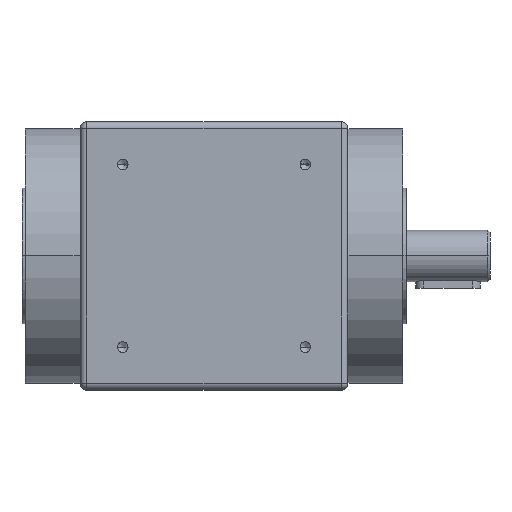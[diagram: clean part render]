
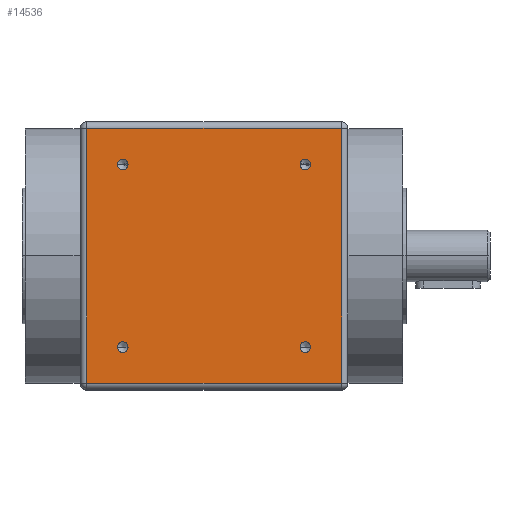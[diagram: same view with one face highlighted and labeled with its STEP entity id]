
A CAD part, top view. The second image highlights one B-rep face of the part: STEP entity #14536.
In plain terms, the highlighted planar face has unit normal (0, 0, 1).
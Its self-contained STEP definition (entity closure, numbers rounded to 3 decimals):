
#176 = VERTEX_POINT ( 'NONE', #6186 ) ;
#447 = ORIENTED_EDGE ( 'NONE', *, *, #22134, .T. ) ;
#1052 = CARTESIAN_POINT ( 'NONE',  ( 28.284, -28.284, 83. ) ) ;
#1228 = CARTESIAN_POINT ( 'NONE',  ( -29.934, -28.284, 83. ) ) ;
#1272 = AXIS2_PLACEMENT_3D ( 'NONE', #4582, #18094, #6503 ) ;
#1332 = DIRECTION ( 'NONE',  ( 0., -1., 0. ) ) ;
#1541 = DIRECTION ( 'NONE',  ( 0., 0., 1. ) ) ;
#2124 = VERTEX_POINT ( 'NONE', #7396 ) ;
#2131 = DIRECTION ( 'NONE',  ( 0., 1., 0. ) ) ;
#2200 = DIRECTION ( 'NONE',  ( 0., 0., 1. ) ) ;
#2317 = EDGE_CURVE ( 'NONE', #9475, #176, #7249, .T. ) ;
#2386 = AXIS2_PLACEMENT_3D ( 'NONE', #14420, #2866, #16351 ) ;
#2619 = FACE_OUTER_BOUND ( 'NONE', #23600, .T. ) ;
#2866 = DIRECTION ( 'NONE',  ( 0., 0., 1. ) ) ;
#2956 = AXIS2_PLACEMENT_3D ( 'NONE', #16407, #4860, #18367 ) ;
#2989 = DIRECTION ( 'NONE',  ( 1., 0., 0. ) ) ;
#3035 = CARTESIAN_POINT ( 'NONE',  ( -39.5, 39.5, 83. ) ) ;
#3200 = CIRCLE ( 'NONE', #2386, 1.65 ) ;
#4169 = VERTEX_POINT ( 'NONE', #22442 ) ;
#4200 = DIRECTION ( 'NONE',  ( 0., 0., 1. ) ) ;
#4272 = AXIS2_PLACEMENT_3D ( 'NONE', #1052, #14526, #2989 ) ;
#4396 = CIRCLE ( 'NONE', #2956, 1.65 ) ;
#4424 = ORIENTED_EDGE ( 'NONE', *, *, #14872, .F. ) ;
#4428 = CARTESIAN_POINT ( 'NONE',  ( -39.5, -39.5, 83. ) ) ;
#4582 = CARTESIAN_POINT ( 'NONE',  ( -28.284, -28.284, 83. ) ) ;
#4637 = EDGE_CURVE ( 'NONE', #7660, #12339, #9064, .T. ) ;
#4860 = DIRECTION ( 'NONE',  ( 0., 0., 1. ) ) ;
#4978 = DIRECTION ( 'NONE',  ( 1., 0., 0. ) ) ;
#5533 = ORIENTED_EDGE ( 'NONE', *, *, #7173, .T. ) ;
#5631 = VERTEX_POINT ( 'NONE', #17357 ) ;
#5776 = VERTEX_POINT ( 'NONE', #4428 ) ;
#5878 = ORIENTED_EDGE ( 'NONE', *, *, #17469, .F. ) ;
#6186 = CARTESIAN_POINT ( 'NONE',  ( -26.634, -28.284, 83. ) ) ;
#6307 = EDGE_CURVE ( 'NONE', #12688, #2124, #15721, .T. ) ;
#6503 = DIRECTION ( 'NONE',  ( 1., 0., 0. ) ) ;
#6537 = LINE ( 'NONE', #22655, #21323 ) ;
#6892 = VECTOR ( 'NONE', #21322, 1000. ) ;
#6910 = CIRCLE ( 'NONE', #13167, 1.65 ) ;
#7173 = EDGE_CURVE ( 'NONE', #5631, #10009, #12014, .T. ) ;
#7249 = CIRCLE ( 'NONE', #1272, 1.65 ) ;
#7396 = CARTESIAN_POINT ( 'NONE',  ( 29.934, -28.284, 83. ) ) ;
#7660 = VERTEX_POINT ( 'NONE', #11644 ) ;
#7732 = FACE_BOUND ( 'NONE', #20730, .T. ) ;
#8757 = AXIS2_PLACEMENT_3D ( 'NONE', #10260, #23802, #12226 ) ;
#9064 = CIRCLE ( 'NONE', #8757, 1.65 ) ;
#9475 = VERTEX_POINT ( 'NONE', #1228 ) ;
#9944 = DIRECTION ( 'NONE',  ( 1., 0., 0. ) ) ;
#10009 = VERTEX_POINT ( 'NONE', #22889 ) ;
#10260 = CARTESIAN_POINT ( 'NONE',  ( -28.284, 28.284, 83. ) ) ;
#11616 = CARTESIAN_POINT ( 'NONE',  ( -39.5, 39.5, 83. ) ) ;
#11644 = CARTESIAN_POINT ( 'NONE',  ( -29.934, 28.284, 83. ) ) ;
#12014 = LINE ( 'NONE', #11616, #6892 ) ;
#12226 = DIRECTION ( 'NONE',  ( 1., 0., 0. ) ) ;
#12339 = VERTEX_POINT ( 'NONE', #12420 ) ;
#12420 = CARTESIAN_POINT ( 'NONE',  ( -26.634, 28.284, 83. ) ) ;
#12688 = VERTEX_POINT ( 'NONE', #21025 ) ;
#12846 = FACE_BOUND ( 'NONE', #24669, .T. ) ;
#12850 = VERTEX_POINT ( 'NONE', #20175 ) ;
#13071 = CARTESIAN_POINT ( 'NONE',  ( 28.284, -28.284, 83. ) ) ;
#13167 = AXIS2_PLACEMENT_3D ( 'NONE', #13071, #1541, #15015 ) ;
#13646 = ORIENTED_EDGE ( 'NONE', *, *, #21949, .F. ) ;
#13668 = CARTESIAN_POINT ( 'NONE',  ( 39.5, 39.5, 83. ) ) ;
#13741 = CARTESIAN_POINT ( 'NONE',  ( 28.284, 28.284, 83. ) ) ;
#14261 = EDGE_CURVE ( 'NONE', #12850, #5631, #18039, .T. ) ;
#14420 = CARTESIAN_POINT ( 'NONE',  ( -28.284, 28.284, 83. ) ) ;
#14526 = DIRECTION ( 'NONE',  ( 0., 0., 1. ) ) ;
#14536 = ADVANCED_FACE ( 'NONE', ( #18019, #7732, #12846, #23126, #2619 ), #20310, .T. ) ;
#14872 = EDGE_CURVE ( 'NONE', #176, #9475, #18024, .T. ) ;
#15015 = DIRECTION ( 'NONE',  ( 1., 0., 0. ) ) ;
#15059 = EDGE_CURVE ( 'NONE', #15672, #4169, #4396, .T. ) ;
#15246 = ORIENTED_EDGE ( 'NONE', *, *, #20214, .T. ) ;
#15611 = ORIENTED_EDGE ( 'NONE', *, *, #14261, .T. ) ;
#15672 = VERTEX_POINT ( 'NONE', #24389 ) ;
#15675 = DIRECTION ( 'NONE',  ( 1., 0., 0. ) ) ;
#15721 = CIRCLE ( 'NONE', #4272, 1.65 ) ;
#15747 = CARTESIAN_POINT ( 'NONE',  ( -28.284, -28.284, 83. ) ) ;
#16033 = LINE ( 'NONE', #19589, #21779 ) ;
#16351 = DIRECTION ( 'NONE',  ( 1., 0., 0. ) ) ;
#16407 = CARTESIAN_POINT ( 'NONE',  ( 28.284, 28.284, 83. ) ) ;
#16522 = DIRECTION ( 'NONE',  ( 0., 0., 1. ) ) ;
#16797 = EDGE_CURVE ( 'NONE', #2124, #12688, #6910, .T. ) ;
#17275 = ORIENTED_EDGE ( 'NONE', *, *, #2317, .F. ) ;
#17357 = CARTESIAN_POINT ( 'NONE',  ( 39.5, 39.5, 83. ) ) ;
#17441 = VECTOR ( 'NONE', #2131, 1000. ) ;
#17469 = EDGE_CURVE ( 'NONE', #4169, #15672, #22231, .T. ) ;
#17717 = DIRECTION ( 'NONE',  ( 1., 0., 0. ) ) ;
#18019 = FACE_BOUND ( 'NONE', #24222, .T. ) ;
#18024 = CIRCLE ( 'NONE', #19433, 1.65 ) ;
#18039 = LINE ( 'NONE', #13668, #17441 ) ;
#18094 = DIRECTION ( 'NONE',  ( 0., 0., 1. ) ) ;
#18367 = DIRECTION ( 'NONE',  ( 1., 0., 0. ) ) ;
#18879 = AXIS2_PLACEMENT_3D ( 'NONE', #13741, #2200, #15675 ) ;
#19433 = AXIS2_PLACEMENT_3D ( 'NONE', #15747, #4200, #17717 ) ;
#19589 = CARTESIAN_POINT ( 'NONE',  ( -39.5, -39.5, 83. ) ) ;
#20175 = CARTESIAN_POINT ( 'NONE',  ( 39.5, -39.5, 83. ) ) ;
#20214 = EDGE_CURVE ( 'NONE', #5776, #12850, #16033, .T. ) ;
#20310 = PLANE ( 'NONE',  #21672 ) ;
#20730 = EDGE_LOOP ( 'NONE', ( #5878, #22010 ) ) ;
#21025 = CARTESIAN_POINT ( 'NONE',  ( 26.634, -28.284, 83. ) ) ;
#21322 = DIRECTION ( 'NONE',  ( -1., 0., 0. ) ) ;
#21323 = VECTOR ( 'NONE', #1332, 1000. ) ;
#21672 = AXIS2_PLACEMENT_3D ( 'NONE', #3035, #16522, #4978 ) ;
#21779 = VECTOR ( 'NONE', #9944, 1000. ) ;
#21949 = EDGE_CURVE ( 'NONE', #12339, #7660, #3200, .T. ) ;
#22010 = ORIENTED_EDGE ( 'NONE', *, *, #15059, .F. ) ;
#22134 = EDGE_CURVE ( 'NONE', #10009, #5776, #6537, .T. ) ;
#22231 = CIRCLE ( 'NONE', #18879, 1.65 ) ;
#22260 = EDGE_LOOP ( 'NONE', ( #4424, #17275 ) ) ;
#22442 = CARTESIAN_POINT ( 'NONE',  ( 29.934, 28.284, 83. ) ) ;
#22655 = CARTESIAN_POINT ( 'NONE',  ( -39.5, 39.5, 83. ) ) ;
#22889 = CARTESIAN_POINT ( 'NONE',  ( -39.5, 39.5, 83. ) ) ;
#23126 = FACE_BOUND ( 'NONE', #22260, .T. ) ;
#23292 = ORIENTED_EDGE ( 'NONE', *, *, #6307, .F. ) ;
#23600 = EDGE_LOOP ( 'NONE', ( #15611, #5533, #447, #15246 ) ) ;
#23802 = DIRECTION ( 'NONE',  ( 0., 0., 1. ) ) ;
#24109 = ORIENTED_EDGE ( 'NONE', *, *, #4637, .F. ) ;
#24222 = EDGE_LOOP ( 'NONE', ( #13646, #24109 ) ) ;
#24316 = ORIENTED_EDGE ( 'NONE', *, *, #16797, .F. ) ;
#24389 = CARTESIAN_POINT ( 'NONE',  ( 26.634, 28.284, 83. ) ) ;
#24669 = EDGE_LOOP ( 'NONE', ( #24316, #23292 ) ) ;
